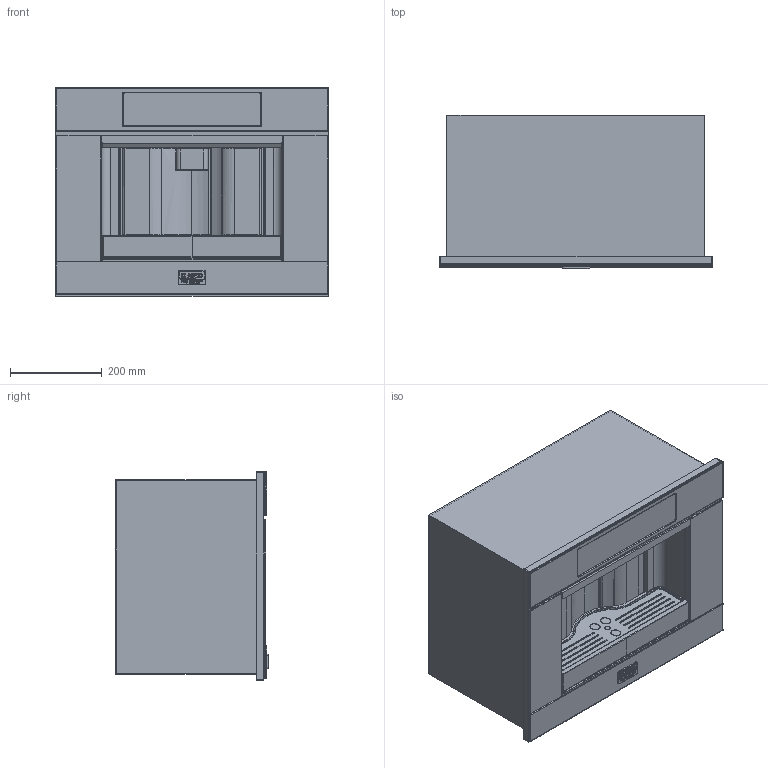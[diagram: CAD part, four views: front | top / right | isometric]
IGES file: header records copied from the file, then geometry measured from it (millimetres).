
Start section: SolidWorks IGES file using analytic representation for surfaces
Global section: file name: D:\backup\d\ASKO PROSERIES\3D ARHITEKTI\CAFFE MACHINE\460517_CM8456S.IGS; native system: SolidWorks 2012; preprocessor: SolidWorks 2012; author: Napotnik; date: 140720.173209; units: millimetre
Bounding box: 595 x 333.8 x 455.29 mm (x, y, z)
Volume: 27287684.6 mm3; surface area: 4084011.9 mm2
Topology: 18 solids, 18 shells, 895 faces, 2272 edges, 1444 vertices
Faces by surface type: plane 436, revolution 251, bspline 208
